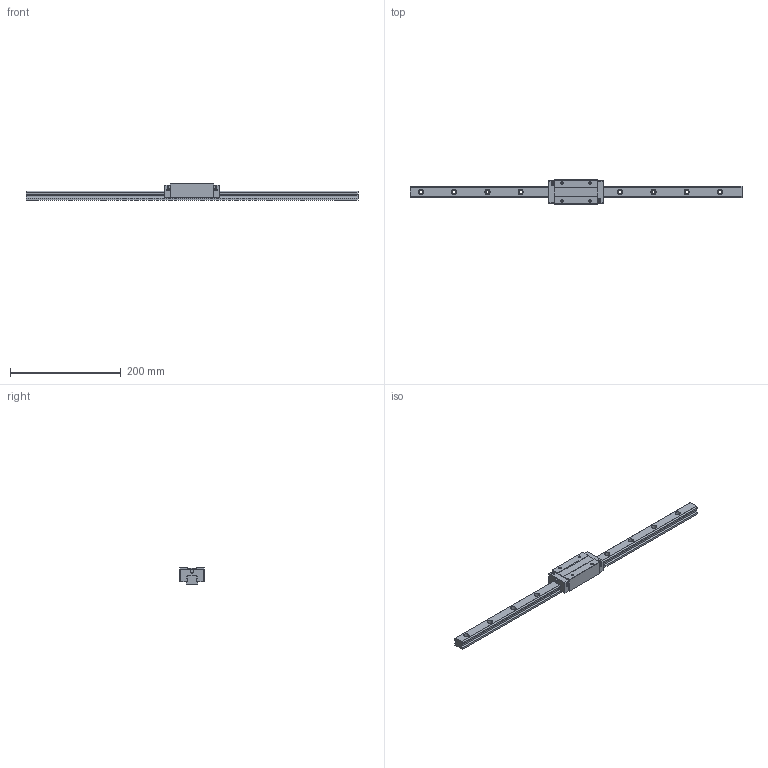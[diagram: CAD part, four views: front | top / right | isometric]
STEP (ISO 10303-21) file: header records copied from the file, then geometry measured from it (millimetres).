
FILE_DESCRIPTION (( 'STEP AP203' ), '1' );
FILE_NAME ('TRH20VE-XNC.STEP', '2026-02-12T07:32:15', ( '' ), ( '' ), 'SwSTEP 2.0', 'SolidWorks 2022', '' );
FILE_SCHEMA (( 'CONFIG_CONTROL_DESIGN' ));
Length unit declared in the file: millimetre
Products named in the file (1): TRH20VE-XNC
Bounding box: 600 x 44 x 30 mm (x, y, z)
Volume: 251948.9 mm3; surface area: 67524.3 mm2
Topology: 1 solids, 1 shells, 341 faces, 915 edges, 602 vertices
Faces by surface type: plane 139, cylinder 96, bspline 90, cone 16
Entity records: 17223 total; most frequent: CARTESIAN_POINT 9034, ORIENTED_EDGE 1814, DIRECTION 1426, EDGE_CURVE 907, VERTEX_POINT 602, LINE 518, VECTOR 518, AXIS2_PLACEMENT_3D 454
